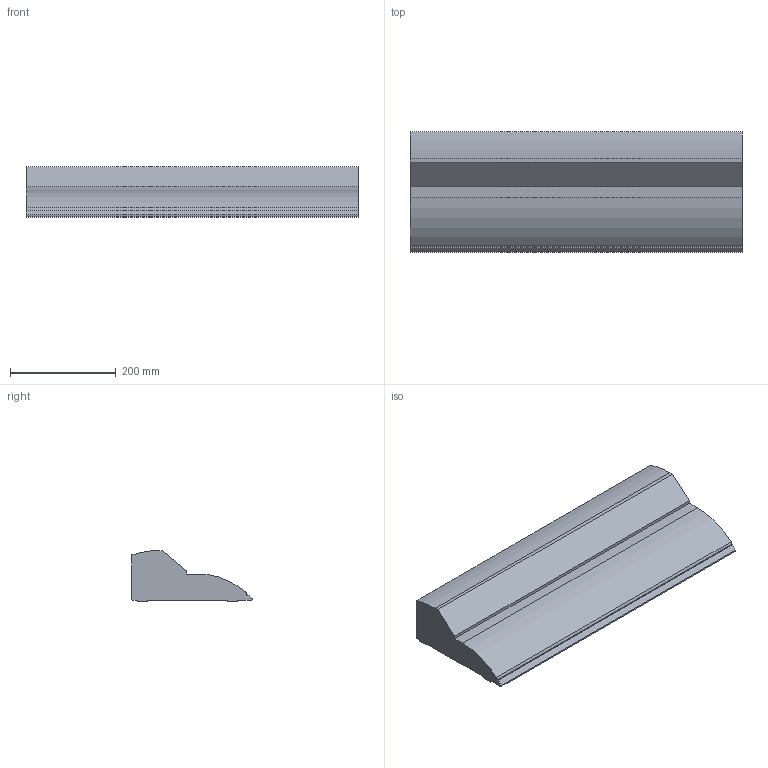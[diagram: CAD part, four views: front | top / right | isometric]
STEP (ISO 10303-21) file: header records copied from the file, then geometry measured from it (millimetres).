
FILE_DESCRIPTION(/* description */ ('Unknown'),/* implementation_level */ '2;1');
FILE_NAME(/* name */ '3D_Footsie1-Slim_w_diffuser',/* time_stamp */ '2024-05-16T08:09:49+02:00',/* author */ ('vaclavek'),/* organization */ ('ROBE lighting s.r.o.'),/* preprocessor_version */ 'ST-DEVELOPER v19.4',/* originating_system */ 'Solid Edge',/* authorisation */ 'Unknown');
FILE_SCHEMA (('AUTOMOTIVE_DESIGN {1 0 10303 214 3 1 1}'));
Length unit declared in the file: millimetre
Products named in the file (1): 3D_Footsie1-Slim
Bounding box: 629 x 228.1 x 96.46 mm (x, y, z)
Volume: 8538182.1 mm3; surface area: 397662.6 mm2
Topology: 1 solids, 1 shells, 24 faces, 66 edges, 44 vertices
Faces by surface type: plane 16, cylinder 8
Entity records: 796 total; most frequent: CARTESIAN_POINT 135, ORIENTED_EDGE 132, DIRECTION 132, EDGE_CURVE 66, LINE 50, VECTOR 50, VERTEX_POINT 44, AXIS2_PLACEMENT_3D 41
